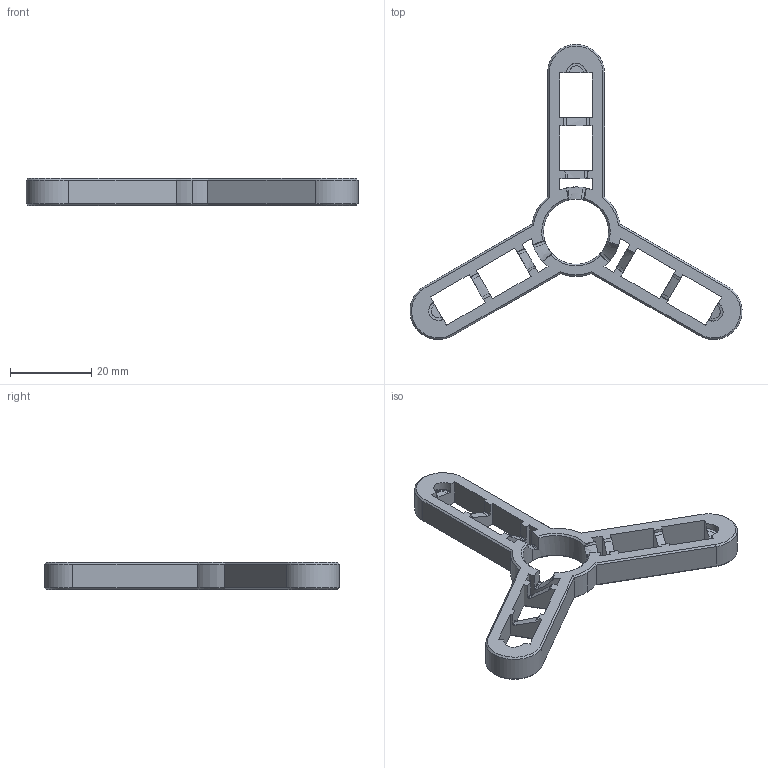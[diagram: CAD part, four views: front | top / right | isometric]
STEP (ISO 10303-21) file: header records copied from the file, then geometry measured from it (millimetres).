
FILE_DESCRIPTION(/* description */ (''),/* implementation_level */ '2;1');
FILE_NAME(/* name */ 'HSTEMP~1',/* time_stamp */ '2021-03-31T18:38:33+02:00',/* author */ (''),/* organization */ (''),/* preprocessor_version */ 'ST-DEVELOPER v16.5',/* originating_system */ '',/* authorisation */ '');
FILE_SCHEMA (('CONFIG_CONTROL_DESIGN'));
Length unit declared in the file: millimetre
Products named in the file (1): Document
Bounding box: 81.54 x 72.5 x 6.66 mm (x, y, z)
Volume: 6518.6 mm3; surface area: 5858.2 mm2
Topology: 1 solids, 1 shells, 199 faces, 553 edges, 347 vertices
Faces by surface type: bspline 101, plane 86, cylinder 12
Entity records: 151531 total; most frequent: CARTESIAN_POINT 148009, ORIENTED_EDGE 1106, EDGE_CURVE 553, B_SPLINE_CURVE_WITH_KNOTS 487, VERTEX_POINT 347, EDGE_LOOP 210, ADVANCED_FACE 199, FACE_OUTER_BOUND 199
